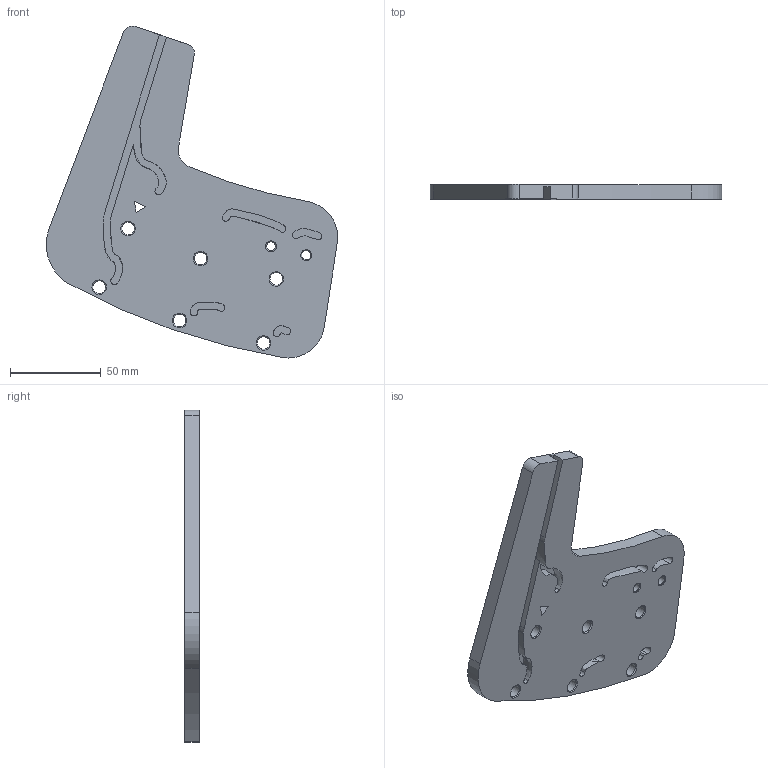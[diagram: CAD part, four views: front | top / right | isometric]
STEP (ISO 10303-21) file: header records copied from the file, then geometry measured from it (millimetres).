
FILE_DESCRIPTION(/* description */ (''),/* implementation_level */ '2;1');
FILE_NAME(/* name */ 'GETOUT_STAVE_100-SX.stp',/* time_stamp */ '2018-10-15T11:11:08+02:00',/* author */ (''),/* organization */ (''),/* preprocessor_version */ 'ST-DEVELOPER v16.7',/* originating_system */ 'SIEMENS PLM Software NX 12.0',/* authorisation */ '');
FILE_SCHEMA (('AP203_CONFIGURATION_CONTROLLED_3D_DESIGN_OF_MECHANICAL_PARTS_AND_ASSEMBLIES_MIM_LF { 1 0 10303 403 2 1 2}'));
Length unit declared in the file: millimetre
Products named in the file (1): turc3FB8140Bmo1f
Bounding box: 160.45 x 8 x 182.77 mm (x, y, z)
Volume: 119305.4 mm3; surface area: 41472.5 mm2
Topology: 1 solids, 1 shells, 299 faces, 774 edges, 512 vertices
Faces by surface type: plane 194, extrusion 60, cylinder 29, cone 16
Full cylindrical faces by diameter (mm): 5 x2, 7 x6
Entity records: 11701 total; most frequent: CARTESIAN_POINT 5081, ORIENTED_EDGE 1492, DIRECTION 953, EDGE_CURVE 746, VERTEX_POINT 508, B_SPLINE_CURVE_WITH_KNOTS 475, EDGE_LOOP 376, AXIS2_PLACEMENT_3D 318
